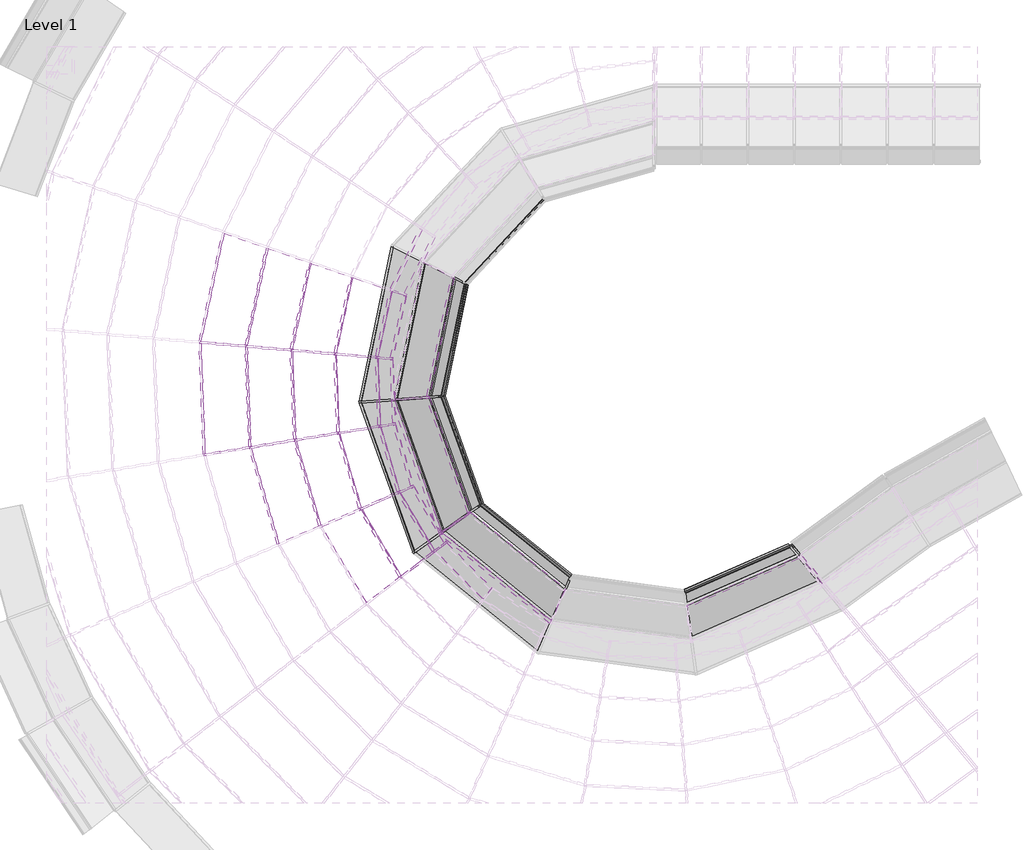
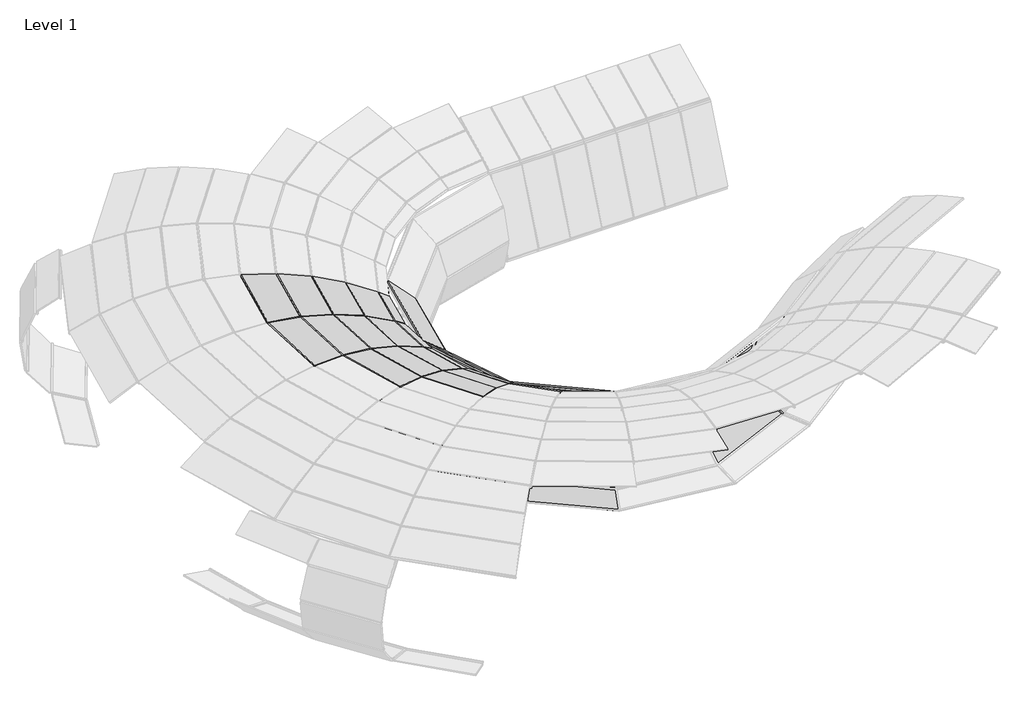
# One storey, part 6 of 23: 68 members, 36 plates.
"""IFC4 building model written with IfcOpenShell, lengths in millimetres."""

from ifc_helpers import new_model, si_unit, origin, place, context, project, spatial, transform, mapped, element, save
from components import member_0cd36c09, member_d0a40a1c, member_ff9adfd2, member_8c9da58c, member_391bee44, member_01ebdf2a, member_d6b8231b, member_c947e835, member_77008461, member_264a49eb, member_c876edb5, member_782630c7, member_398e5ff5, member_398607d0, member_5ccaa950, member_8174f0e4, member_18f2ae55, member_299080b6, member_cb0bb3a9, member_172ab1ab, member_54499f2f, member_c8b9029b, system_panel_glazed_b4bd1deb, system_panel_glazed_ffd0fcf6, system_panel_glazed_fd5b3178, system_panel_glazed_7646b435, system_panel_glazed_4562f0d4, system_panel_glazed_e73db01d, system_panel_glazed_0c479225, system_panel_glazed_18224c41, system_panel_glazed_5bffbcfe, system_panel_glazed_024423c3

model = new_model("IFC4")

# Units and contexts
model_context = context("Model", 3, world=origin())
ifc_project = project(units=[si_unit("LENGTHUNIT", "METRE", prefix="MILLI")], contexts=[model_context])

# Site, building, storey
site = spatial("IfcSite", under=ifc_project)
building = spatial("IfcBuilding", under=site)
storey = spatial("IfcBuildingStorey", under=building, Name="Level 1", Elevation=0.0)

# Members
placement = place(None, origin())
member_shape = member_0cd36c09(model_context)
element("IfcMember", 1, ObjectType="Rectangular Mullion : 1\" Square", at=placement, inside=storey, context=model_context, shape_type="MappedRepresentation", body=[
    mapped(member_shape, transform((-15878.5880451, -834.8577708, 2864.5209769), x_axis=(-0.08542121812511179, -0.9963449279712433, 0.0), y_axis=(0.09531798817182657, -0.008172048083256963, 0.9954133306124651), z_axis=(-0.991775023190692, 0.0850294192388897, 0.09566766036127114))),
])
element("IfcMember", 2, ObjectType="Rectangular Mullion : 1\" Square", at=placement, inside=storey, context=model_context, shape_type="MappedRepresentation", body=[
    mapped(member_shape, transform((-15274.0019909, -886.6917047, 2806.2019711), x_axis=(-0.08542121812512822, -0.996344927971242, 0.0), y_axis=(0.21272252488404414, -0.018237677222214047, 0.9769424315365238), z_axis=(-0.9733716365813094, 0.08345161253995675, 0.21350289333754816))),
])
element("IfcMember", 3, ObjectType="Rectangular Mullion : 1\" Square", at=placement, inside=storey, context=model_context, shape_type="MappedRepresentation", body=[
    mapped(member_shape, transform((-14680.6346413, -937.5638077, 2676.0506073), x_axis=(-0.0854212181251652, -0.9963449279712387, 0.0), y_axis=(0.3271008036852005, -0.028043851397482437, 0.9445732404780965), z_axis=(-0.9411207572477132, 0.08068659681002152, 0.3283007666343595))),
])
element("IfcMember", 4, ObjectType="Rectangular Mullion : 1\" Square", at=placement, inside=storey, context=model_context, shape_type="MappedRepresentation", body=[
    mapped(member_shape, transform((-15223.2002916, -2214.2926507, 2806.2019711), x_axis=(0.16131178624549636, -0.9869034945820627, 0.0), y_axis=(0.21070675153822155, 0.03444053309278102, 0.9769424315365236), z_axis=(-0.9641478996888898, -0.1575923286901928, 0.2135028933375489))),
])
element("IfcMember", 5, ObjectType="Rectangular Mullion : 1\" Square", at=placement, inside=storey, context=model_context, shape_type="MappedRepresentation", body=[
    mapped(member_shape, transform((-14635.455732, -2118.2243671, 2676.0506073), x_axis=(0.16131178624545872, -0.9869034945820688, 0.0), y_axis=(0.3240011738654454, 0.05295878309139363, 0.9445732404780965), z_axis=(-0.9322026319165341, -0.15237079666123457, 0.32830076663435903))),
])
member_2_shape = member_d0a40a1c(model_context)
element("IfcMember", 6, ObjectType="Rectangular Mullion : 1\" Square", at=placement, inside=storey, context=model_context, shape_type="MappedRepresentation", body=[
    mapped(member_2_shape, transform((-14106.9274277, -986.7503571, 2475.91846), x_axis=(-0.08542121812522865, -0.9963449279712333, 0.0), y_axis=(0.43682564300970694, -0.03745106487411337, 0.8987662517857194), z_axis=(-0.895481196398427, 0.07677370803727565, 0.4384281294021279))),
])
element("IfcMember", 7, ObjectType="Rectangular Mullion : 1\" Square", at=placement, inside=storey, context=model_context, shape_type="MappedRepresentation", body=[
    mapped(member_2_shape, transform((-14067.1850075, -2025.3391295, 2475.91846), x_axis=(0.16131178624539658, -0.9869034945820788, 0.0), y_axis=(0.43268625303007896, 0.07072362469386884, 0.8987662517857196), z_axis=(-0.8869955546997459, -0.14498158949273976, 0.4384281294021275))),
])
element("IfcMember", 8, ObjectType="Rectangular Mullion : 1\" Square", at=placement, inside=storey, context=model_context, shape_type="MappedRepresentation", body=[
    mapped(member_2_shape, transform((-13774.1741816, -3022.5305624, 2475.91846), x_axis=(0.39821020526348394, -0.9172941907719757, 0.0), y_axis=(0.4021675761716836, 0.1745865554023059, 0.8987662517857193), z_axis=(-0.8244330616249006, -0.3578978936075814, 0.4384281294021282))),
])
element("IfcMember", 9, ObjectType="Rectangular Mullion : 1\" Square", at=placement, inside=storey, context=model_context, shape_type="MappedRepresentation", body=[
    mapped(member_2_shape, transform((-13245.7587406, -3917.5295678, 2475.91846), x_axis=(0.6108312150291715, -0.7917608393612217, 0.0), y_axis=(0.3471302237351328, 0.2678055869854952, 0.8987662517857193), z_axis=(-0.7116079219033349, -0.5489944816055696, 0.4384281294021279))),
])
member_3_shape = member_ff9adfd2(model_context)
element("IfcMember", 10, ObjectType="Rectangular Mullion : 1\" Square", at=placement, inside=storey, context=model_context, shape_type="MappedRepresentation", body=[
    mapped(member_3_shape, transform((-13373.2009265, -149.2131586, 2208.6526723), x_axis=(-0.32694640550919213, -0.9450428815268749, 0.0), y_axis=(0.48348906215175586, -0.16726755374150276, 0.8592205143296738), z_axis=(-0.8120002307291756, 0.2809190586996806, 0.5116054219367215))),
])
element("IfcMember", 11, ObjectType="Rectangular Mullion : 1\" Square", at=placement, inside=storey, context=model_context, shape_type="MappedRepresentation", body=[
    mapped(member_3_shape, transform((-13561.0420903, -1033.5516096, 2208.6526723), x_axis=(-0.08542121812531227, -0.9963449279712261, 0.0), y_axis=(0.5097354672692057, -0.043701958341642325, 0.8592205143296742), z_axis=(-0.8560800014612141, 0.07339566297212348, 0.5116054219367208))),
])
element("IfcMember", 12, ObjectType="Rectangular Mullion : 1\" Square", at=placement, inside=storey, context=model_context, shape_type="MappedRepresentation", body=[
    mapped(member_3_shape, transform((-13526.4725174, -1936.9583525, 2208.6526723), x_axis=(0.16131178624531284, -0.9869034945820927, 0.0), y_axis=(0.5049051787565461, 0.08252798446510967, 0.8592205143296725), z_axis=(-0.8479677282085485, -0.13860239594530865, 0.5116054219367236))),
])
element("IfcMember", 13, ObjectType="Rectangular Mullion : 1\" Square", at=placement, inside=storey, context=model_context, shape_type="MappedRepresentation", body=[
    mapped(member_3_shape, transform((-13271.5997873, -2804.3560065, 2208.6526723), x_axis=(0.39821020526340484, -0.9172941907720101, 0.0), y_axis=(0.4692926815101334, 0.20372650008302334, 0.8592205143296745), z_axis=(-0.7881579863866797, -0.34215037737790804, 0.5116054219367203))),
])
element("IfcMember", 14, ObjectType="Rectangular Mullion : 1\" Square", at=placement, inside=storey, context=model_context, shape_type="MappedRepresentation", body=[
    mapped(member_3_shape, transform((-12811.9625514, -3582.8625318, 2208.6526723), x_axis=(0.6108312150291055, -0.7917608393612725, 0.0), y_axis=(0.405069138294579, 0.3125045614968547, 0.8592205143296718), z_axis=(-0.6802971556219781, -0.5248387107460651, 0.5116054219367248))),
])
element("IfcMember", 15, ObjectType="Rectangular Mullion : 1\" Square", at=placement, inside=storey, context=model_context, shape_type="MappedRepresentation", body=[
    mapped(member_shape, transform((-15822.0572465, -2312.1772824, 2864.5209769), x_axis=(0.1613117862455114, -0.9869034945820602, 0.0), y_axis=(0.09441474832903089, 0.015432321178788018, 0.995413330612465), z_axis=(-0.9823768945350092, -0.16057190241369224, 0.09566766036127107))),
])
member_4_shape = member_8c9da58c(model_context)
element("IfcMember", 16, ObjectType="Rectangular Mullion : 1\" Square", at=placement, inside=storey, context=model_context, shape_type="MappedRepresentation", body=[
    mapped(member_4_shape, transform((-12399.8331026, -61.5081244, 1116.1918244), x_axis=(-0.45899792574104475, -0.888437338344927, 0.0), y_axis=(0.8591140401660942, -0.4438484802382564, -0.254797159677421), z_axis=(0.22637131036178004, -0.11695136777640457, 0.9669945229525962))),
])
element("IfcMember", 17, ObjectType="Rectangular Mullion : 1\" Square", at=placement, inside=storey, context=model_context, shape_type="MappedRepresentation", body=[
    mapped(member_4_shape, transform((-12891.0785435, -1555.4218894, 1696.6281859), x_axis=(0.070040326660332, -0.9975441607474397, 0.0), y_axis=(0.9498210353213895, 0.06668955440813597, 0.30560187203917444), z_axis=(-0.30485136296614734, -0.02140445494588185, 0.952159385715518))),
])
element("IfcMember", 18, ObjectType="Rectangular Mullion : 1\" Square", at=placement, inside=storey, context=model_context, shape_type="MappedRepresentation", body=[
    mapped(member_4_shape, transform((-12705.2411526, -1542.3737337, 1116.1918244), x_axis=(0.07004032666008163, -0.9975441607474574, 0.0), y_axis=(0.9646197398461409, 0.06772861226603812, -0.25479715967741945), z_axis=(0.2541714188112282, 0.01784607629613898, 0.9669945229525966))),
])
element("IfcMember", 19, ObjectType="Rectangular Mullion : 1\" Square", at=placement, inside=storey, context=model_context, shape_type="MappedRepresentation", body=[
    mapped(member_4_shape, transform((-12347.837099, -3073.8314586, 1696.6281859), x_axis=(0.578641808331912, -0.8155817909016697, 0.0), y_axis=(0.7765638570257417, 0.5509592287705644, 0.3056018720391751), z_axis=(-0.249243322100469, -0.17683401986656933, 0.9521593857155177))),
])
element("IfcMember", 20, ObjectType="Rectangular Mullion : 1\" Square", at=placement, inside=storey, context=model_context, shape_type="MappedRepresentation", body=[
    mapped(member_4_shape, transform((-12195.8983698, -2966.03344, 1116.1918244), x_axis=(0.5786418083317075, -0.8155817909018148, 0.0), y_axis=(0.7886631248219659, 0.5595434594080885, -0.2547971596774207), z_axis=(0.20780792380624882, 0.14743628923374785, 0.9669945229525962))),
])
element("IfcMember", 21, ObjectType="Rectangular Mullion : 1\" Square", at=placement, inside=storey, context=model_context, shape_type="MappedRepresentation", body=[
    mapped(member_4_shape, transform((-11020.4237309, -3917.0835981, 1116.1918244), x_axis=(0.9184038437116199, -0.39564425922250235, 0.0), y_axis=(0.3825858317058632, 0.8880914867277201, -0.25479715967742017), z_axis=(0.10080903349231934, 0.23400669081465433, 0.9669945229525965))),
])
member_5_shape = member_391bee44(model_context)
element("IfcMember", 22, ObjectType="Rectangular Mullion : 1\" Square", at=placement, inside=storey, context=model_context, shape_type="MappedRepresentation", body=[
    mapped(member_5_shape, transform((-8038.7859914, -3630.2893738, 526.7119632), x_axis=(0.7730505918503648, 0.6343443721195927, 0.0), y_axis=(-0.4300442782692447, 0.5240780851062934, -0.7351218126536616), z_axis=(-0.4663203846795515, 0.568286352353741, 0.6779350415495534))),
])
element("IfcMember", 23, ObjectType="Rectangular Mullion : 1\" Square", at=placement, inside=storey, context=model_context, shape_type="MappedRepresentation", body=[
    mapped(member_5_shape, transform((-12860.1840496, -1553.2527018, 526.7119632), x_axis=(0.07004032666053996, -0.9975441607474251, 0.0), y_axis=(0.6762701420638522, 0.047482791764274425, -0.7351218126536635), z_axis=(0.7333164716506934, 0.05148817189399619, 0.6779350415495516))),
])
element("IfcMember", 24, ObjectType="Rectangular Mullion : 1\" Square", at=placement, inside=storey, context=model_context, shape_type="MappedRepresentation", body=[
    mapped(member_5_shape, transform((-12322.5780802, -3055.910602, 526.7119632), x_axis=(0.5786418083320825, -0.8155817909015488, 0.0), y_axis=(0.5529114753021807, 0.3922815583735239, -0.7351218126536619), z_axis=(0.599551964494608, 0.4253722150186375, 0.6779350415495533))),
])
member_6_shape = member_01ebdf2a(model_context)
element("IfcMember", 25, ObjectType="Rectangular Mullion : 1\" Square", at=placement, inside=storey, context=model_context, shape_type="MappedRepresentation", body=[
    mapped(member_6_shape, transform((-13307.2137707, -1584.6398914, 113.4427618), x_axis=(0.07004032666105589, -0.9975441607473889, 0.0), y_axis=(0.22782836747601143, 0.015996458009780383, -0.9735698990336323), z_axis=(0.9711789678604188, 0.06818915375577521, 0.22838925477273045))),
])
element("IfcMember", 26, ObjectType="Rectangular Mullion : 1\" Square", at=placement, inside=storey, context=model_context, shape_type="MappedRepresentation", body=[
    mapped(member_6_shape, transform((-12688.0649577, -3315.2175042, 113.4427618), x_axis=(0.578641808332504, -0.8155817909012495, 0.0), y_axis=(0.18627011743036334, 0.13215557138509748, -0.9735698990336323), z_axis=(0.7940258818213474, 0.5633482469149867, 0.22838925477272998))),
])
member_7_shape = member_d6b8231b(model_context)
element("IfcMember", 27, ObjectType="Rectangular Mullion : 1\" Square", at=placement, inside=storey, context=model_context, shape_type="MappedRepresentation", body=[
    mapped(member_7_shape, transform((-12730.6449153, -3345.4272808, 2085.6089632), x_axis=(0.5786418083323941, -0.8155817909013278, 0.0), y_axis=(0.5204160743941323, 0.3692266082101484, 0.7699602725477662), z_axis=(-0.6279655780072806, -0.44553120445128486, 0.6380918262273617))),
])
element("IfcMember", 28, ObjectType="Rectangular Mullion : 1\" Square", at=placement, inside=storey, context=model_context, shape_type="MappedRepresentation", body=[
    mapped(member_7_shape, transform((-13359.2936338, -1588.2965622, 2085.6089632), x_axis=(0.07004032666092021, -0.9975441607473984, 0.0), y_axis=(0.6365247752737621, 0.04469215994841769, 0.7699602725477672), z_axis=(-0.7680693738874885, -0.05392826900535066, 0.6380918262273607))),
])
member_8_shape = member_c947e835(model_context)
element("IfcMember", 29, ObjectType="Rectangular Mullion : 1\" Square", at=placement, inside=storey, context=model_context, shape_type="MappedRepresentation", body=[
    mapped(member_8_shape, transform((-8006.4137076, -3643.7293495, 1696.6281859), x_axis=(-0.7847540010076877, -0.6190879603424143, 0.029853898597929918), y_axis=(-0.3773462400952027, 0.5154243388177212, 0.7693812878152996), z_axis=(-0.49170211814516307, 0.5925097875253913, -0.6380918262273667))),
])
member_9_shape = member_77008461(model_context)
element("IfcMember", 30, ObjectType="Rectangular Mullion : 1\" Square", at=placement, inside=storey, context=model_context, shape_type="MappedRepresentation", body=[
    mapped(member_9_shape, transform((-8125.3829594, -3500.3692876, 1116.1918244), x_axis=(-0.8033943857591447, -0.5951851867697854, 0.01766506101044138), y_axis=(-0.5625568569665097, 0.768407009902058, 0.3050908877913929), z_axis=(-0.19515953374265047, 0.23517070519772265, -0.9521593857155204))),
])
member_10_shape = member_264a49eb(model_context)
element("IfcMember", 31, ObjectType="Rectangular Mullion : 1\" Square", at=placement, inside=storey, context=model_context, shape_type="MappedRepresentation", body=[
    mapped(member_10_shape, transform((-8026.1917233, -3619.8964892, 526.7119632), x_axis=(-0.8044559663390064, -0.5938239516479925, -0.014957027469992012), y_axis=(-0.5712918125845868, 0.7803382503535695, -0.25435777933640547), z_axis=(0.1627152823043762, -0.1960748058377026, -0.9669945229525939))),
])
member_11_shape = member_c876edb5(model_context)
element("IfcMember", 32, ObjectType="Rectangular Mullion : 1\" Square", at=placement, inside=storey, context=model_context, shape_type="MappedRepresentation", body=[
    mapped(member_11_shape, transform((-14677.9959205, -925.1409597, 2676.0506073), x_axis=(0.9418970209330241, -0.2000671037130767, -0.26982059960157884), y_axis=(0.2639323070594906, -0.056061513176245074, 0.9629106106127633), z_axis=(-0.20777328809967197, -0.9781770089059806, 0.0))),
])
element("IfcMember", 33, ObjectType="Rectangular Mullion : 1\" Square", at=placement, inside=storey, context=model_context, shape_type="MappedRepresentation", body=[
    mapped(member_11_shape, transform((-14635.9413521, -2105.5336551, 2676.0506073), x_axis=(0.9622064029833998, 0.03681958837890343, -0.26982059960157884), y_axis=(0.2696232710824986, 0.01031734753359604, 0.9629106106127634), z_axis=(0.03823780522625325, -0.9992686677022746, 0.0))),
])
element("IfcMember", 34, ObjectType="Rectangular Mullion : 1\" Square", at=placement, inside=storey, context=model_context, shape_type="MappedRepresentation", body=[
    mapped(member_11_shape, transform((-14305.9433988, -3239.6398462, 2676.0506073), x_axis=(0.9238536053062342, 0.2714615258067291, -0.2698205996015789), y_axis=(0.2588762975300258, 0.07606719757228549, 0.9629106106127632), z_axis=(0.2819176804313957, -0.9594385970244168, 0.0))),
])
member_12_shape = member_782630c7(model_context)
element("IfcMember", 35, ObjectType="Rectangular Mullion : 1\" Square", at=placement, inside=storey, context=model_context, shape_type="MappedRepresentation", body=[
    mapped(member_12_shape, transform((-14104.2887069, -974.3275091, 2475.91846), x_axis=(0.9040281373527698, -0.19202342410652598, -0.3819163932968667), y_axis=(0.3735818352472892, -0.07935202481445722, 0.9241968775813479), z_axis=(-0.20777328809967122, -0.9781770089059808, 0.0))),
])
element("IfcMember", 36, ObjectType="Rectangular Mullion : 1\" Square", at=placement, inside=storey, context=model_context, shape_type="MappedRepresentation", body=[
    mapped(member_12_shape, transform((-14067.6706277, -2012.6484174, 2475.91846), x_axis=(0.9235209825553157, 0.03533926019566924, -0.3819163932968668), y_axis=(0.3816370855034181, 0.014603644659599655, 0.924196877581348), z_axis=(0.03823780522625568, -0.9992686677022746, 0.0))),
])
element("IfcMember", 37, ObjectType="Rectangular Mullion : 1\" Square", at=placement, inside=storey, context=model_context, shape_type="MappedRepresentation", body=[
    mapped(member_12_shape, transform((-13777.7545362, -3010.3456923, 2475.91846), x_axis=(0.886710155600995, 0.2605474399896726, -0.3819163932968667), y_axis=(0.3664253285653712, 0.10766898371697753, 0.9241968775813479), z_axis=(0.2819176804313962, -0.9594385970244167, 0.0))),
])
element("IfcMember", 38, ObjectType="Rectangular Mullion : 1\" Square", at=placement, inside=storey, context=model_context, shape_type="MappedRepresentation", body=[
    mapped(member_12_shape, transform((-13252.2155485, -3906.5934062, 2475.91846), x_axis=(0.795839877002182, 0.46987100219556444, -0.38191639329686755), y_axis=(0.328873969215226, 0.19417014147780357, 0.9241968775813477), z_axis=(0.5084100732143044, -0.8611150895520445, 0.0))),
])
member_13_shape = member_398e5ff5(model_context)
element("IfcMember", 39, ObjectType="Rectangular Mullion : 1\" Square", at=placement, inside=storey, context=model_context, shape_type="MappedRepresentation", body=[
    mapped(member_13_shape, transform((-13367.598738, -137.81555, 2208.6526723), x_axis=(0.7829440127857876, -0.3848351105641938, -0.48877460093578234), y_axis=(0.4386505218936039, -0.21560688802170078, 0.8724101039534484), z_axis=(-0.4411172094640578, -0.8974495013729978, 0.0))),
])
element("IfcMember", 40, ObjectType="Rectangular Mullion : 1\" Square", at=placement, inside=storey, context=model_context, shape_type="MappedRepresentation", body=[
    mapped(member_13_shape, transform((-13558.4033696, -1021.1287616, 2208.6526723), x_axis=(0.8533715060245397, -0.18126351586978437, -0.4887746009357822), y_axis=(0.4781080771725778, -0.10155430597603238, 0.8724101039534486), z_axis=(-0.20777328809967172, -0.9781770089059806, 0.0))),
])
element("IfcMember", 41, ObjectType="Rectangular Mullion : 1\" Square", at=placement, inside=storey, context=model_context, shape_type="MappedRepresentation", body=[
    mapped(member_13_shape, transform((-13526.9581375, -1924.2676405, 2208.6526723), x_axis=(0.8717720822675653, 0.03335904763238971, -0.4887746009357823), y_axis=(0.48841714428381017, 0.01868966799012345, 0.8724101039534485), z_axis=(0.03823780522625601, -0.9992686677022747, 0.0))),
])
element("IfcMember", 42, ObjectType="Rectangular Mullion : 1\" Square", at=placement, inside=storey, context=model_context, shape_type="MappedRepresentation", body=[
    mapped(member_13_shape, transform((-13275.1801418, -2792.1711363, 2208.6526723), x_axis=(0.8370239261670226, 0.24594783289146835, -0.48877460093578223), y_axis=(0.4689492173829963, 0.13779420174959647, 0.8724101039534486), z_axis=(0.281917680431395, -0.9594385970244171, 0.0))),
])
element("IfcMember", 43, ObjectType="Rectangular Mullion : 1\" Square", at=placement, inside=storey, context=model_context, shape_type="MappedRepresentation", body=[
    mapped(member_13_shape, transform((-12818.4193593, -3571.9263702, 2208.6526723), x_axis=(0.7512455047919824, 0.4435420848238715, -0.48877460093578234), y_axis=(0.42089118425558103, 0.24849793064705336, 0.8724101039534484), z_axis=(0.5084100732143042, -0.8611150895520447, 0.0))),
])
member_14_shape = member_398607d0(model_context)
element("IfcMember", 44, ObjectType="Rectangular Mullion : 1\" Square", at=placement, inside=storey, context=model_context, shape_type="MappedRepresentation", body=[
    mapped(member_14_shape, transform((-15875.9493243, -822.4349228, 2864.5209769), x_axis=(0.9775369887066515, -0.20763734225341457, -0.03616863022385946), y_axis=(0.03537932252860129, -0.007514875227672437, 0.9993457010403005), z_axis=(-0.2077732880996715, -0.9781770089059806, 0.0))),
])
element("IfcMember", 45, ObjectType="Rectangular Mullion : 1\" Square", at=placement, inside=storey, context=model_context, shape_type="MappedRepresentation", body=[
    mapped(member_14_shape, transform((-15822.5428667, -2299.4865703, 2864.5209769), x_axis=(0.9986148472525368, 0.0382127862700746, -0.03616863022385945), y_axis=(0.03614217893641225, 0.001383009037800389, 0.9993457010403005), z_axis=(0.03823780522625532, -0.9992686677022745, 0.0))),
])
member_15_shape = member_5ccaa950(model_context)
element("IfcMember", 46, ObjectType="Rectangular Mullion : 1\" Square", at=placement, inside=storey, context=model_context, shape_type="MappedRepresentation", body=[
    mapped(member_15_shape, transform((-15271.3632702, -874.2688567, 2806.2019711), x_axis=(0.9665017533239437, -0.20529336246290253, -0.15404218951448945), y_axis=(0.1506805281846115, -0.03200585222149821, 0.9880642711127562), z_axis=(-0.20777328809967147, -0.9781770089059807, 0.0))),
])
element("IfcMember", 47, ObjectType="Rectangular Mullion : 1\" Square", at=placement, inside=storey, context=model_context, shape_type="MappedRepresentation", body=[
    mapped(member_15_shape, transform((-15223.6859117, -2201.6019386, 2806.2019711), x_axis=(0.987341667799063, 0.037781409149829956, -0.15404218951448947), y_axis=(0.1539295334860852, 0.005890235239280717, 0.9880642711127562), z_axis=(0.03823780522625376, -0.9992686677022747, 0.0))),
])
element("IfcMember", 48, ObjectType="Rectangular Mullion : 1\" Square", at=placement, inside=storey, context=model_context, shape_type="MappedRepresentation", body=[
    mapped(member_15_shape, transform((-14852.2325478, -3476.791587, 2806.2019711), x_axis=(0.9479869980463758, 0.2785527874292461, -0.15404218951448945), y_axis=(0.1477940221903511, 0.04342721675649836, 0.9880642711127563), z_axis=(0.2819176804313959, -0.9594385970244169, 0.0))),
])
member_16_shape = member_8174f0e4(model_context)
element("IfcMember", 49, ObjectType="Rectangular Mullion : 1\" Square", at=placement, inside=storey, context=model_context, shape_type="MappedRepresentation", body=[
    mapped(member_16_shape, transform((-13172.3085476, -205.3780141, 2085.6089632), x_axis=(0.7695498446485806, -0.3782515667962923, -0.5145082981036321), y_axis=(0.4617452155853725, -0.22695846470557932, 0.8574853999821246), z_axis=(-0.4411172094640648, -0.8974495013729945, 0.0))),
])
element("IfcMember", 50, ObjectType="Rectangular Mullion : 1\" Square", at=placement, inside=storey, context=model_context, shape_type="MappedRepresentation", body=[
    mapped(member_16_shape, transform((-13352.5117699, -1038.7807922, 2085.6089632), x_axis=(0.8387725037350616, -0.1781625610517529, -0.5145082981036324), y_axis=(0.5032801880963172, -0.10690108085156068, 0.8574853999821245), z_axis=(-0.20777328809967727, -0.9781770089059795, 0.0))),
])
element("IfcMember", 51, ObjectType="Rectangular Mullion : 1\" Square", at=placement, inside=storey, context=model_context, shape_type="MappedRepresentation", body=[
    mapped(member_16_shape, transform((-13323.0175809, -1890.9330585, 2085.6089632), x_axis=(0.8568582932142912, 0.03278835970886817, -0.5145082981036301), y_axis=(0.5141320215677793, 0.01967366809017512, 0.8574853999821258), z_axis=(0.038237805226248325, -0.9992686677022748, 0.0))),
])
element("IfcMember", 52, ObjectType="Rectangular Mullion : 1\" Square", at=placement, inside=storey, context=model_context, shape_type="MappedRepresentation", body=[
    mapped(member_16_shape, transform((-13085.6241327, -2709.8822283, 2085.6089632), x_axis=(0.8227045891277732, 0.24174029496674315, -0.5145082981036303), y_axis=(0.49363911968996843, 0.14504898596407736, 0.8574853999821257), z_axis=(0.28191768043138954, -0.9594385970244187, 0.0))),
])
element("IfcMember", 53, ObjectType="Rectangular Mullion : 1\" Square", at=placement, inside=storey, context=model_context, shape_type="MappedRepresentation", body=[
    mapped(member_16_shape, transform((-12654.8044292, -3445.6999877, 2085.6089632), x_axis=(0.7383936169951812, 0.43595421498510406, -0.5145082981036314), y_axis=(0.44305085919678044, 0.26158120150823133, 0.857485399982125), z_axis=(0.5084100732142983, -0.861115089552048, 0.0))),
])
member_17_shape = member_18f2ae55(model_context)
element("IfcMember", 54, ObjectType="Rectangular Mullion : 1\" Square", at=placement, inside=storey, context=model_context, shape_type="MappedRepresentation", body=[
    mapped(member_17_shape, transform((-12352.1152218, -3061.8737136, 1696.6281859), x_axis=(0.5394330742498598, 0.1929929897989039, -0.8196131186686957), y_axis=(0.771710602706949, 0.27609492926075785, 0.5729173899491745), z_axis=(0.33686006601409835, -0.9415547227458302, 0.0))),
])
element("IfcMember", 55, ObjectType="Rectangular Mullion : 1\" Square", at=placement, inside=storey, context=model_context, shape_type="MappedRepresentation", body=[
    mapped(member_17_shape, transform((-8030.7687332, -3659.3363187, 1696.6281859), x_axis=(-0.23030109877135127, 0.5245910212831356, -0.8196131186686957), y_axis=(-0.32946774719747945, 0.7504776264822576, 0.5729173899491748), z_axis=(0.9156486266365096, 0.4019795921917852, 0.0))),
])
element("IfcMember", 56, ObjectType="Rectangular Mullion : 1\" Square", at=placement, inside=storey, context=model_context, shape_type="MappedRepresentation", body=[
    mapped(member_17_shape, transform((-12888.5133297, -1542.9836549, 1696.6281859), x_axis=(0.5611087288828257, -0.11572091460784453, -0.8196131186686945), y_axis=(0.8027196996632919, -0.16554983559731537, 0.5729173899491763), z_axis=(-0.2019853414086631, -0.9793885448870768, 0.0))),
])
member_18_shape = member_299080b6(model_context)
element("IfcMember", 57, ObjectType="Rectangular Mullion : 1\" Square", at=placement, inside=storey, context=model_context, shape_type="MappedRepresentation", body=[
    mapped(member_18_shape, transform((-12391.173045, -52.2187002, 1116.1918244), x_axis=(0.020016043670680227, -0.018659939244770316, -0.9996255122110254), y_axis=(0.7311768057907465, -0.6816389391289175, 0.027364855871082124), z_axis=(-0.6818943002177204, -0.7314507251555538, 0.0))),
])
element("IfcMember", 58, ObjectType="Rectangular Mullion : 1\" Square", at=placement, inside=storey, context=model_context, shape_type="MappedRepresentation", body=[
    mapped(member_18_shape, transform((-12702.6759388, -1529.9354992, 1116.1918244), x_axis=(0.026800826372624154, -0.005527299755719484, -0.9996255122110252), y_axis=(0.9790217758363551, -0.20190970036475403, 0.027364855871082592), z_axis=(-0.20198534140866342, -0.9793885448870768, 0.0))),
])
element("IfcMember", 59, ObjectType="Rectangular Mullion : 1\" Square", at=placement, inside=storey, context=model_context, shape_type="MappedRepresentation", body=[
    mapped(member_18_shape, transform((-12200.1764927, -2954.0756951, 1116.1918244), x_axis=(0.025765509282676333, 0.009218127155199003, -0.9996255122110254), y_axis=(0.9412021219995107, 0.33673391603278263, 0.02736485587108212), z_axis=(0.3368600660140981, -0.9415547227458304, 0.0))),
])
element("IfcMember", 60, ObjectType="Rectangular Mullion : 1\" Square", at=placement, inside=storey, context=model_context, shape_type="MappedRepresentation", body=[
    mapped(member_18_shape, transform((-11030.296895, -3909.0954425, 1116.1918244), x_axis=(0.017212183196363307, 0.02127383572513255, -0.9996255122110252), y_axis=(0.6287530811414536, 0.7771233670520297, 0.02736485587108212), z_axis=(0.7774144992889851, -0.6289886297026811, 0.0))),
])
member_19_shape = member_cb0bb3a9(model_context)
element("IfcMember", 61, ObjectType="Rectangular Mullion : 1\" Square", at=placement, inside=storey, context=model_context, shape_type="MappedRepresentation", body=[
    mapped(member_19_shape, transform((-13304.6485568, -1572.2016569, 113.4427618), x_axis=(-0.8822854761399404, 0.181959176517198, -0.4341234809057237), y_axis=(0.42517556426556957, -0.08768657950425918, -0.9008533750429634), z_axis=(-0.20198534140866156, -0.9793885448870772, 0.0))),
])
element("IfcMember", 62, ObjectType="Rectangular Mullion : 1\" Square", at=placement, inside=storey, context=model_context, shape_type="MappedRepresentation", body=[
    mapped(member_19_shape, transform((-12692.3430806, -3303.2597593, 113.4427618), x_axis=(-0.8482027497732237, -0.3034615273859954, -0.434123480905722), y_axis=(0.40875101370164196, 0.14623886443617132, -0.9008533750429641), z_axis=(0.3368600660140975, -0.9415547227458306, 0.0))),
])
member_20_shape = member_172ab1ab(model_context)
element("IfcMember", 63, ObjectType="Rectangular Mullion : 1\" Square", at=placement, inside=storey, context=model_context, shape_type="MappedRepresentation", body=[
    mapped(member_20_shape, transform((-13787.0408851, -1606.0717526, 0.0), x_axis=(-0.9515524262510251, 0.1962445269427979, -0.23671938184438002), y_axis=(0.2318402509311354, -0.047813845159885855, -0.9715780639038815), z_axis=(-0.2019853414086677, -0.9793885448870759, 0.0))),
])
element("IfcMember", 64, ObjectType="Rectangular Mullion : 1\" Square", at=placement, inside=storey, context=model_context, shape_type="MappedRepresentation", body=[
    mapped(member_20_shape, transform((-13086.74206, -3583.0793202, 0.0), x_axis=(-0.9147939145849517, -0.3272858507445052, -0.23671938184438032), y_axis=(0.22288425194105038, 0.07974130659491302, -0.9715780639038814), z_axis=(0.3368600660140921, -0.9415547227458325, 0.0))),
])
member_21_shape = member_54499f2f(model_context)
element("IfcMember", 65, ObjectType="Rectangular Mullion : 1\" Square", at=placement, inside=storey, context=model_context, shape_type="MappedRepresentation", body=[
    mapped(member_21_shape, transform((-12857.6188357, -1540.8144673, 526.7119632), x_axis=(-0.5173007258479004, 0.10668611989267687, -0.8491278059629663), y_axis=(0.8316260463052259, -0.17151136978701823, -0.5281874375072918), z_axis=(-0.20198534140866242, -0.979388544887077, 0.0))),
])
element("IfcMember", 66, ObjectType="Rectangular Mullion : 1\" Square", at=placement, inside=storey, context=model_context, shape_type="MappedRepresentation", body=[
    mapped(member_21_shape, transform((-12326.856203, -3043.952857, 526.7119632), x_axis=(-0.4973173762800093, -0.17792525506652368, -0.8491278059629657), y_axis=(0.7995002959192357, 0.2860372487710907, -0.5281874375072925), z_axis=(0.33686006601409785, -0.9415547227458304, 0.0))),
])
member_22_shape = member_c8b9029b(model_context)
element("IfcMember", 67, ObjectType="Rectangular Mullion : 1\" Square", at=placement, inside=storey, context=model_context, shape_type="MappedRepresentation", body=[
    mapped(member_22_shape, transform((-13355.015511, -1600.2543072, 2085.6089632), x_axis=(-0.7136183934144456, -0.25531127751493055, 0.6523533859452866), y_axis=(0.614226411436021, 0.21975180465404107, 0.7579149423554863), z_axis=(-0.336860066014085, 0.9415547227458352, 0.0))),
])
element("IfcMember", 68, ObjectType="Rectangular Mullion : 1\" Square", at=placement, inside=storey, context=model_context, shape_type="MappedRepresentation", body=[
    mapped(member_22_shape, transform((-12720.7717512, -3353.4154364, 2085.6089632), x_axis=(-0.47671988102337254, -0.5892140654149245, 0.6523533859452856), y_axis=(0.4103228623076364, 0.5071489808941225, 0.7579149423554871), z_axis=(-0.7774144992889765, 0.628988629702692, 0.0))),
])

# Plates
system_panel_glazed_shape = system_panel_glazed_b4bd1deb(model_context)
element("IfcPlate", 69, ObjectType="System Panel : Glazed", at=placement, inside=storey, context=model_context, shape_type="MappedRepresentation", body=[
    mapped(system_panel_glazed_shape, transform((-15712.6369636, -114.4154084, 2863.296718), x_axis=(-0.20777328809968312, -0.9781770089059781, 0.0), y_axis=(-0.09429463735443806, 0.020028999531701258, -0.9953428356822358), z_axis=(0.973621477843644, -0.20680565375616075, -0.09639833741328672))),
])
element("IfcPlate", 70, ObjectType="System Panel : Glazed", at=placement, inside=storey, context=model_context, shape_type="MappedRepresentation", body=[
    mapped(system_panel_glazed_shape, transform((-15837.6910364, -1573.0341681, 2863.296718), x_axis=(0.03823780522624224, -0.9992686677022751, 0.0), y_axis=(-0.09632783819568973, -0.0036860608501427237, -0.9953428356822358), z_axis=(0.9946149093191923, 0.038059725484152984, -0.09639833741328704))),
])
system_panel_glazed_2_shape = system_panel_glazed_ffd0fcf6(model_context)
element("IfcPlate", 71, ObjectType="System Panel : Glazed", at=placement, inside=storey, context=model_context, shape_type="MappedRepresentation", body=[
    mapped(system_panel_glazed_2_shape, transform((-15123.8489165, -239.4791008, 2803.4705448), x_axis=(-0.20777328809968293, -0.9781770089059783, 0.0), y_axis=(-0.21037940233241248, 0.04468641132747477, -0.9765979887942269), z_axis=(0.9552856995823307, -0.20291097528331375, -0.2150729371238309))),
])
element("IfcPlate", 72, ObjectType="System Panel : Glazed", at=placement, inside=storey, context=model_context, shape_type="MappedRepresentation", body=[
    mapped(system_panel_glazed_2_shape, transform((-15236.2074174, -1550.0179221, 2803.4705448), x_axis=(0.03823780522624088, -0.9992686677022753, 0.0), y_axis=(-0.21491564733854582, -0.008223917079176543, -0.9765979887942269), z_axis=(0.9758837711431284, 0.03734296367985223, -0.215072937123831))),
])
element("IfcPlate", 73, ObjectType="System Panel : Glazed", at=placement, inside=storey, context=model_context, shape_type="MappedRepresentation", body=[
    mapped(system_panel_glazed_2_shape, transform((-15024.0265227, -2848.1379869, 2803.4705448), x_axis=(0.28191768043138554, -0.9594385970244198, 0.0), y_axis=(-0.20634927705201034, -0.060632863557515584, -0.9765979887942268), z_axis=(0.936985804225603, 0.2753202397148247, -0.2150729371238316))),
])
system_panel_glazed_3_shape = system_panel_glazed_fd5b3178(model_context)
element("IfcPlate", 74, ObjectType="System Panel : Glazed", at=placement, inside=storey, context=model_context, shape_type="MappedRepresentation", body=[
    mapped(system_panel_glazed_3_shape, transform((-14546.1654963, -362.1840741, 2671.8525455), x_axis=(-0.20777328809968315, -0.9781770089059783, 0.0), y_axis=(-0.32334232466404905, 0.06868071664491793, -0.943786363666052), z_axis=(0.9231901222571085, -0.19609359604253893, -0.3305560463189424))),
])
element("IfcPlate", 75, ObjectType="System Panel : Glazed", at=placement, inside=storey, context=model_context, shape_type="MappedRepresentation", body=[
    mapped(system_panel_glazed_3_shape, transform((-14646.0678656, -1527.4357658, 2671.8525455), x_axis=(0.03823780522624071, -0.9992686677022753, 0.0), y_axis=(-0.3303143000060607, -0.012639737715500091, -0.9437863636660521), z_axis=(0.9430961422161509, 0.03608831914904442, -0.33055604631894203))),
])
element("IfcPlate", 76, ObjectType="System Panel : Glazed", at=placement, inside=storey, context=model_context, shape_type="MappedRepresentation", body=[
    mapped(system_panel_glazed_3_shape, transform((-14457.4094738, -2681.645452, 2671.8525455), x_axis=(0.28191768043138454, -0.9594385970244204, 0.0), y_axis=(-0.3171482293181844, -0.09318959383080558, -0.9437863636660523), z_axis=(0.9055050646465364, 0.2660700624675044, -0.33055604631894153))),
])
element("IfcPlate", 77, ObjectType="System Panel : Glazed", at=placement, inside=storey, context=model_context, shape_type="MappedRepresentation", body=[
    mapped(system_panel_glazed_3_shape, transform((-13991.692128, -3754.44522, 2671.8525455), x_axis=(0.5084100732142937, -0.861115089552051, 0.0), y_axis=(-0.284646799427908, -0.16805802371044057, -0.943786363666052), z_axis=(0.8127086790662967, 0.47983049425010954, -0.33055604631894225))),
])
system_panel_glazed_4_shape = system_panel_glazed_7646b435(model_context)
element("IfcPlate", 78, ObjectType="System Panel : Glazed", at=placement, inside=storey, context=model_context, shape_type="MappedRepresentation", body=[
    mapped(system_panel_glazed_4_shape, transform((-13987.8042955, -480.7848402, 2470.3158265), x_axis=(-0.20777328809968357, -0.9781770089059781, 0.0), y_axis=(-0.4315249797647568, 0.09165965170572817, -0.8974322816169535), z_axis=(0.8778476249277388, -0.18646245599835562, -0.44115224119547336))),
])
element("IfcPlate", 79, ObjectType="System Panel : Glazed", at=placement, inside=storey, context=model_context, shape_type="MappedRepresentation", body=[
    mapped(system_panel_glazed_4_shape, transform((-14075.6671629, -1505.6089321, 2470.3158265), x_axis=(0.038237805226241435, -0.9992686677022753, 0.0), y_axis=(-0.44082961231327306, -0.016868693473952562, -0.8974322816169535), z_axis=(0.8967759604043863, 0.034315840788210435, -0.441152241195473))),
])
element("IfcPlate", 80, ObjectType="System Panel : Glazed", at=placement, inside=storey, context=model_context, shape_type="MappedRepresentation", body=[
    mapped(system_panel_glazed_4_shape, transform((-13909.7444987, -2520.7217202, 2470.3158265), x_axis=(0.28191768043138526, -0.9594385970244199, 0.0), y_axis=(-0.42325848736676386, -0.12436861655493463, -0.8974322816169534), z_axis=(0.8610311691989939, 0.2530020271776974, -0.4411522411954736))),
])
element("IfcPlate", 81, ObjectType="System Panel : Glazed", at=placement, inside=storey, context=model_context, shape_type="MappedRepresentation", body=[
    mapped(system_panel_glazed_4_shape, transform((-13500.1519966, -3464.2355173, 2470.3158265), x_axis=(0.5084100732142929, -0.8611150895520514, 0.0), y_axis=(-0.379882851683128, -0.2242862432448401, -0.8974322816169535), z_axis=(0.7727924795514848, 0.4562636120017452, -0.4411522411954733))),
])
system_panel_glazed_5_shape = system_panel_glazed_4562f0d4(model_context)
element("IfcPlate", 82, ObjectType="System Panel : Glazed", at=placement, inside=storey, context=model_context, shape_type="MappedRepresentation", body=[
    mapped(system_panel_glazed_5_shape, transform((-13456.4690976, -593.6450486, 2202.1184169), x_axis=(-0.2077732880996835, -0.978177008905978, 0.0), y_axis=(-0.5032801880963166, 0.10690108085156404, -0.8574853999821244), z_axis=(0.8387725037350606, -0.1781625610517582, -0.5145082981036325))),
])
element("IfcPlate", 83, ObjectType="System Panel : Glazed", at=placement, inside=storey, context=model_context, shape_type="MappedRepresentation", body=[
    mapped(system_panel_glazed_5_shape, transform((-13532.8752035, -1484.8385689, 2202.1184169), x_axis=(0.038237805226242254, -0.9992686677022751, 0.0), y_axis=(-0.5141320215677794, -0.01967366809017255, -0.8574853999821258), z_axis=(0.8568582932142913, 0.032788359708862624, -0.51450829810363))),
])
element("IfcPlate", 84, ObjectType="System Panel : Glazed", at=placement, inside=storey, context=model_context, shape_type="MappedRepresentation", body=[
    mapped(system_panel_glazed_5_shape, transform((-13388.5878041, -2367.5870778, 2202.1184169), x_axis=(0.28191768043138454, -0.9594385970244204, 0.0), y_axis=(-0.4936391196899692, -0.14504898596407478, -0.8574853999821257), z_axis=(0.8227045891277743, 0.24174029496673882, -0.5145082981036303))),
])
element("IfcPlate", 85, ObjectType="System Panel : Glazed", at=placement, inside=storey, context=model_context, shape_type="MappedRepresentation", body=[
    mapped(system_panel_glazed_5_shape, transform((-13032.4035704, -3188.0726506, 2202.1184169), x_axis=(0.5084100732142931, -0.8611150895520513, 0.0), y_axis=(-0.4430508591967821, -0.26158120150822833, -0.8574853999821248), z_axis=(0.7383936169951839, 0.43595421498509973, -0.5145082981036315))),
])
element("IfcPlate", 86, ObjectType="System Panel : Glazed", at=placement, inside=storey, context=model_context, shape_type="MappedRepresentation", body=[
    mapped(system_panel_glazed_5_shape, transform((-12486.0377431, -3896.2733047, 2202.1184169), x_axis=(0.7039065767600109, -0.710292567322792, 0.0), y_axis=(-0.3654514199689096, -0.3621657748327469, -0.8574853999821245), z_axis=(0.6090655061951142, 0.6035896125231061, -0.5145082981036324))),
])
system_panel_glazed_6_shape = system_panel_glazed_e73db01d(model_context)
element("IfcPlate", 87, ObjectType="System Panel : Glazed", at=placement, inside=storey, context=model_context, shape_type="MappedRepresentation", body=[
    mapped(system_panel_glazed_6_shape, transform((-13151.9667253, -678.3168653, 2069.0391872), x_axis=(-0.20198534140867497, -0.9793885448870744, 0.0), y_axis=(-0.6389074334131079, 0.1317658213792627, -0.7579149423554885), z_axis=(0.7422932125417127, -0.15308770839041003, -0.6523533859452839))),
])
element("IfcPlate", 88, ObjectType="System Panel : Glazed", at=placement, inside=storey, context=model_context, shape_type="MappedRepresentation", body=[
    mapped(system_panel_glazed_6_shape, transform((-13026.8433674, -2460.3770151, 2069.0391872), x_axis=(0.3368600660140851, -0.9415547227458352, 0.0), y_axis=(-0.6142264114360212, -0.21975180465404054, -0.7579149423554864), z_axis=(0.7136183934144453, 0.2553112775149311, -0.6523533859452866))),
])
element("IfcPlate", 89, ObjectType="System Panel : Glazed", at=placement, inside=storey, context=model_context, shape_type="MappedRepresentation", body=[
    mapped(system_panel_glazed_6_shape, transform((-11993.1302264, -3917.3709664, 2069.0391872), x_axis=(0.7774144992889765, -0.6289886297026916, 0.0), y_axis=(-0.4103228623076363, -0.5071489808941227, -0.7579149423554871), z_axis=(0.4767198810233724, 0.5892140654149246, -0.6523533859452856))),
])
system_panel_glazed_7_shape = system_panel_glazed_0c479225(model_context)
element("IfcPlate", 90, ObjectType="System Panel : Glazed", at=placement, inside=storey, context=model_context, shape_type="MappedRepresentation", body=[
    mapped(system_panel_glazed_7_shape, transform((-12724.5390827, -766.4679048, 1684.4943593), x_axis=(-0.20198534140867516, -0.9793885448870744, 0.0), y_axis=(-0.9357268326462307, 0.19298071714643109, -0.29525198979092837), z_axis=(0.28916641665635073, -0.05963657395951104, -0.9554194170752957))),
])
element("IfcPlate", 91, ObjectType="System Panel : Glazed", at=placement, inside=storey, context=model_context, shape_type="MappedRepresentation", body=[
    mapped(system_panel_glazed_7_shape, transform((-12615.9272732, -2313.3635497, 1684.4943593), x_axis=(0.3368600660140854, -0.941554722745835, 0.0), y_axis=(-0.8995796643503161, -0.3218426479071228, -0.2952519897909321), z_axis=(0.27799590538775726, 0.09945860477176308, -0.9554194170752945))),
])
element("IfcPlate", 92, ObjectType="System Panel : Glazed", at=placement, inside=storey, context=model_context, shape_type="MappedRepresentation", body=[
    mapped(system_panel_glazed_7_shape, transform((-11718.6251502, -3578.0894336, 1684.4943593), x_axis=(0.7774144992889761, -0.6289886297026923, 0.0), y_axis=(-0.6009479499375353, -0.7427569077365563, -0.29525198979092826), z_axis=(0.18571014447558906, 0.22953317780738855, -0.9554194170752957))),
])
element("IfcPlate", 93, ObjectType="System Panel : Glazed", at=placement, inside=storey, context=model_context, shape_type="MappedRepresentation", body=[
    mapped(system_panel_glazed_7_shape, transform((-8758.9631942, -3974.9263865, 1684.4943593), x_axis=(0.9156486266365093, 0.40197959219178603, 0.0), y_axis=(0.3840591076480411, -0.8748284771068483, -0.29525198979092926), z_axis=(-0.11868527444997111, 0.27034707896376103, -0.9554194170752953))),
])
system_panel_glazed_8_shape = system_panel_glazed_18224c41(model_context)
element("IfcPlate", 94, ObjectType="System Panel : Glazed", at=placement, inside=storey, context=model_context, shape_type="MappedRepresentation", body=[
    mapped(system_panel_glazed_8_shape, transform((-12555.5958253, -801.3101149, 1103.8818104), x_axis=(-0.2019853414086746, -0.9793885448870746, 0.0), y_axis=(-0.9493139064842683, 0.1957828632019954, 0.24591091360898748), z_axis=(-0.24084233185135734, 0.04967039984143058, -0.9692924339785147))),
])
element("IfcPlate", 95, ObjectType="System Panel : Glazed", at=placement, inside=storey, context=model_context, shape_type="MappedRepresentation", body=[
    mapped(system_panel_glazed_8_shape, transform((-12453.5103012, -2255.255624, 1103.8818104), x_axis=(0.33686006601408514, -0.941554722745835, 0.0), y_axis=(-0.9126418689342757, -0.32651591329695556, 0.24591091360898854), z_axis=(-0.23153858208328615, -0.08283756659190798, -0.9692924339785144))),
])
element("IfcPlate", 96, ObjectType="System Panel : Glazed", at=placement, inside=storey, context=model_context, shape_type="MappedRepresentation", body=[
    mapped(system_panel_glazed_8_shape, transform((-11610.125425, -3443.9864379, 1103.8818104), x_axis=(0.7774144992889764, -0.6289886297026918, 0.0), y_axis=(-0.6096739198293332, -0.7535419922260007, 0.24591091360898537), z_axis=(-0.15467516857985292, -0.19117470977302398, -0.9692924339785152))),
])
element("IfcPlate", 97, ObjectType="System Panel : Glazed", at=placement, inside=storey, context=model_context, shape_type="MappedRepresentation", body=[
    mapped(system_panel_glazed_8_shape, transform((-8828.304154, -3816.9781826, 1103.8818104), x_axis=(0.9156486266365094, 0.4019795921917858, 0.0), y_axis=(0.3896357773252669, -0.8875312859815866, 0.24591091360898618), z_axis=(0.09885116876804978, -0.22516799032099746, -0.9692924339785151))),
])
system_panel_glazed_9_shape = system_panel_glazed_5bffbcfe(model_context)
element("IfcPlate", 98, ObjectType="System Panel : Glazed", at=placement, inside=storey, context=model_context, shape_type="MappedRepresentation", body=[
    mapped(system_panel_glazed_9_shape, transform((-12707.9891879, -769.8810917, 517.9272991), x_axis=(-0.20198534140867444, -0.9793885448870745, 0.0), y_axis=(-0.6774487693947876, 0.13971443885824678, 0.7221793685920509), z_axis=(-0.7072942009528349, 0.1458696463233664, -0.6917058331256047))),
])
element("IfcPlate", 99, ObjectType="System Panel : Glazed", at=placement, inside=storey, context=model_context, shape_type="MappedRepresentation", body=[
    mapped(system_panel_glazed_9_shape, transform((-12600.0167016, -2307.6712239, 517.9272991), x_axis=(0.33686006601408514, -0.9415547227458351, 0.0), y_axis=(-0.6512788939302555, -0.23300807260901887, 0.722179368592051), z_axis=(-0.6799713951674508, -0.24327338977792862, -0.6917058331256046))),
])
element("IfcPlate", 100, ObjectType="System Panel : Glazed", at=placement, inside=storey, context=model_context, shape_type="MappedRepresentation", body=[
    mapped(system_panel_glazed_9_shape, transform((-11707.9963801, -3564.9525348, 517.9272991), x_axis=(0.7774144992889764, -0.628988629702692, 0.0), y_axis=(-0.4350751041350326, -0.5377421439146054, 0.7221793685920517), z_axis=(-0.45424261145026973, -0.5614327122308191, -0.6917058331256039))),
])
element("IfcPlate", 101, ObjectType="System Panel : Glazed", at=placement, inside=storey, context=model_context, shape_type="MappedRepresentation", body=[
    mapped(system_panel_glazed_9_shape, transform((-8765.7559221, -3959.453581, 517.9272991), x_axis=(0.9156486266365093, 0.40197959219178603, 0.0), y_axis=(0.27805162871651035, -0.6333594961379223, 0.7221793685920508), z_axis=(0.29030136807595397, -0.6612625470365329, -0.6917058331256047))),
])
system_panel_glazed_10_shape = system_panel_glazed_024423c3(model_context)
element("IfcPlate", 102, ObjectType="System Panel : Glazed", at=placement, inside=storey, context=model_context, shape_type="MappedRepresentation", body=[
    mapped(system_panel_glazed_10_shape, transform((-13133.6739542, -682.0894963, 110.4364257), x_axis=(-0.2019853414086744, -0.9793885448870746, 0.0), y_axis=(-0.23184025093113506, 0.04781384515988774, 0.9715780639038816), z_axis=(-0.9515524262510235, 0.19624452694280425, -0.23671938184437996))),
])
element("IfcPlate", 103, ObjectType="System Panel : Glazed", at=placement, inside=storey, context=model_context, shape_type="MappedRepresentation", body=[
    mapped(system_panel_glazed_10_shape, transform((-13009.2572469, -2454.0852281, 110.4364257), x_axis=(0.33686006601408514, -0.9415547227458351, 0.0), y_axis=(-0.2228842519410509, -0.07974130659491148, 0.9715780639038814), z_axis=(-0.9147939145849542, -0.32728585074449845, -0.23671938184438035))),
])
element("IfcPlate", 104, ObjectType="System Panel : Glazed", at=placement, inside=storey, context=model_context, shape_type="MappedRepresentation", body=[
    mapped(system_panel_glazed_10_shape, transform((-11981.3821362, -3902.8506155, 110.4364257), x_axis=(0.7774144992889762, -0.6289886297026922, 0.0), y_axis=(-0.14889379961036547, -0.18402907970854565, 0.9715780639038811), z_axis=(-0.6111115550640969, -0.7553188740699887, -0.23671938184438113))),
])

save(model, "model.ifc")
